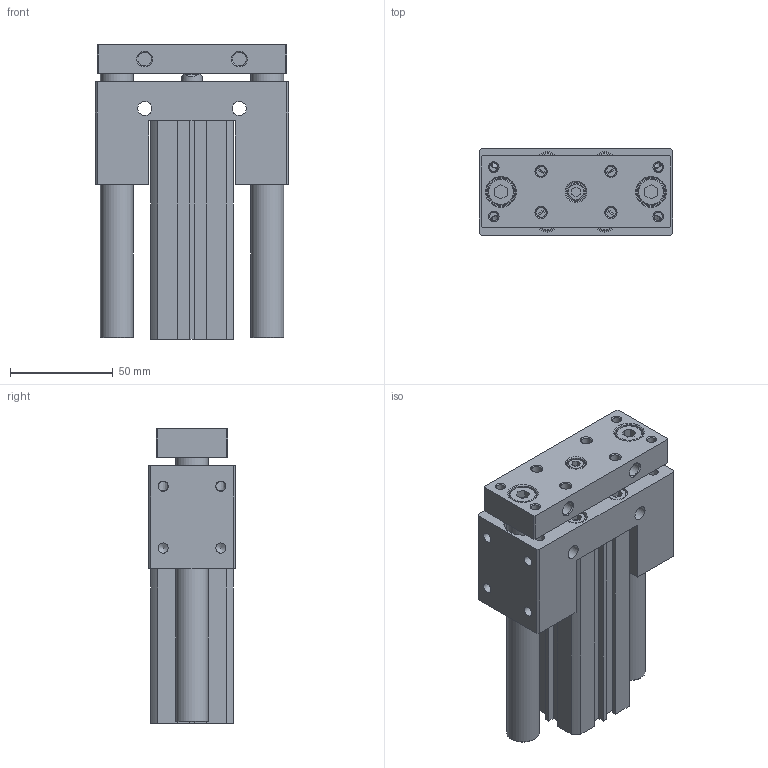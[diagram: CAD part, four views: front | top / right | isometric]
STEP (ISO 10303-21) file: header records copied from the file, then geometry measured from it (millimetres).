
FILE_DESCRIPTION((''),'2;1');
FILE_NAME('I:\3D電子目錄\氣缸\JCB\JCB\JCB25-S\JCB25x75-S.stp','2007-08-21T19:27:41',('Administrator'),(''),'Autodesk Inventor 11','Autodesk Inventor 11','');
FILE_SCHEMA(('AUTOMOTIVE_DESIGN { 1 0 10303 214 1 1 1 1 }'));
Length unit declared in the file: millimetre
Products named in the file (1): JCB25
Bounding box: 94 x 42 x 143.2 mm (x, y, z)
Volume: 339625.3 mm3; surface area: 94371.9 mm2
Topology: 5 solids, 5 shells, 323 faces, 740 edges, 483 vertices
Faces by surface type: plane 172, bspline 61, cylinder 47, cone 35, torus 8
Full cylindrical faces by diameter (mm): 1.5 x2, 4.917 x4, 5.1 x4, 6.647 x2, 8 x8, 8.5 x1, 10 x5, 11 x1, 13 x2, 16 x2, 17 x2, 18 x2, 28 x4, 29.4 x2
Entity records: 8980 total; most frequent: CARTESIAN_POINT 2309, DIRECTION 1332, ORIENTED_EDGE 1160, EDGE_CURVE 580, EDGE_LOOP 544, AXIS2_PLACEMENT_3D 493, VERTEX_POINT 454, VECTOR 346
